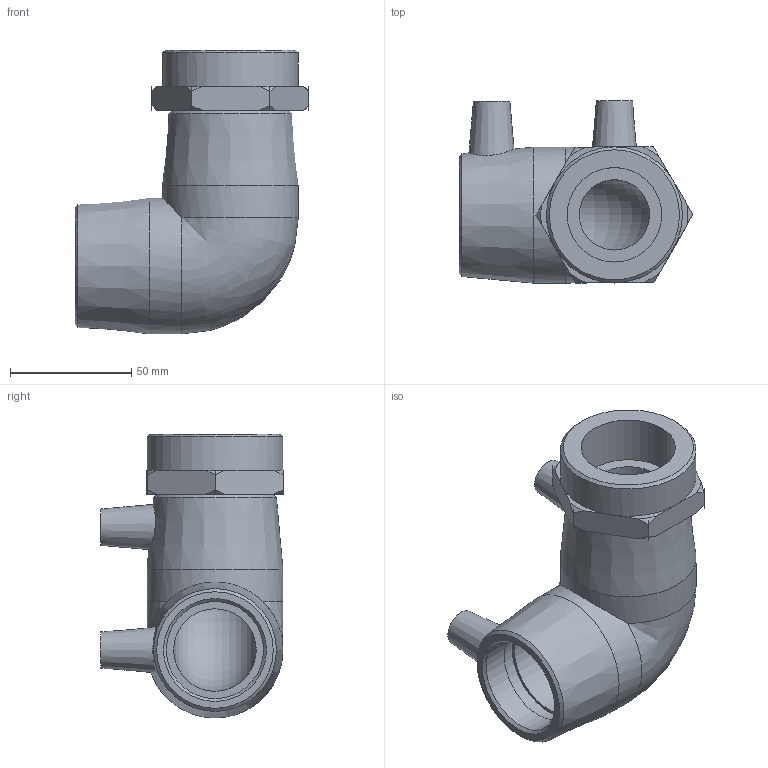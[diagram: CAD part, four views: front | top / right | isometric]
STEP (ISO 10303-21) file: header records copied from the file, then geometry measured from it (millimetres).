
FILE_DESCRIPTION(/* description */ ('PLASSON 90° ELBOW FEMALE TRANSITION 40-1.1/4'''''),/* implementation_level */ '2;1');
FILE_NAME(/* name */ 'C:\Dropbox\KIMPROJECTS-Inventor\99-16-3568-Processing\ElectroFusion Fittings\02.02.20\493504\493504040013.ipt.stp',/* time_stamp */ '2020-02-02T12:34:29+02:00',/* author */ ('KIM'),/* organization */ (''),/* preprocessor_version */ 'ST-DEVELOPER v15.6',/* originating_system */ 'Autodesk Inventor 2015',/* authorisation */ '');
FILE_SCHEMA (('AUTOMOTIVE_DESIGN { 1 0 10303 214 3 1 1 }'));
Length unit declared in the file: millimetre
Products named in the file (1): 493504040013
Bounding box: 96.33 x 75.08 x 117 mm (x, y, z)
Volume: 210111.1 mm3; surface area: 51005 mm2
Topology: 1 solids, 2 shells, 76 faces, 206 edges, 141 vertices
Faces by surface type: plane 27, cylinder 25, cone 22, bspline 1, torus 1
Full cylindrical faces by diameter (mm): 4 x2, 10 x2, 29 x1, 38.952 x1, 40 x4, 56 x3
Entity records: 2375 total; most frequent: CARTESIAN_POINT 512, DIRECTION 384, ORIENTED_EDGE 332, AXIS2_PLACEMENT_3D 168, EDGE_CURVE 166, VERTEX_POINT 129, EDGE_LOOP 115, CIRCLE 91
